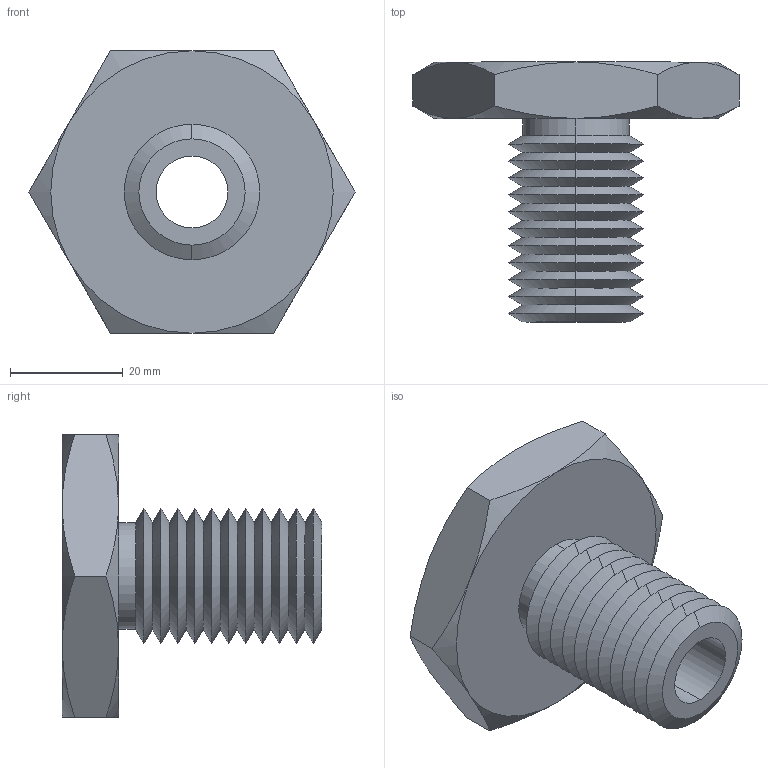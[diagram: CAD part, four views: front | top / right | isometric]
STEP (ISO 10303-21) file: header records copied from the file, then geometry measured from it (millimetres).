
FILE_DESCRIPTION (( 'STEP AP203' ), '1' );
FILE_NAME ('63302.W0024_0,50 UNC-13.step', '2013-12-08T11:04:44', ( 'User' ), ( '' ), 'SwSTEP 2.0', 'SolidWorks 2009', '' );
FILE_SCHEMA (( 'CONFIG_CONTROL_DESIGN' ));
Length unit declared in the file: millimetre
Products named in the file (1): 63302.W0024_0,50 UNC-13
Bounding box: 57.73 x 46 x 50 mm (x, y, z)
Volume: 28231 mm3; surface area: 12015.3 mm2
Topology: 1 solids, 1 shells, 71 faces, 146 edges, 78 vertices
Faces by surface type: cone 58, plane 9, cylinder 4
Entity records: 2039 total; most frequent: CARTESIAN_POINT 480, DIRECTION 332, ORIENTED_EDGE 292, EDGE_CURVE 146, AXIS2_PLACEMENT_3D 138, VERTEX_POINT 78, EDGE_LOOP 74, ADVANCED_FACE 71
